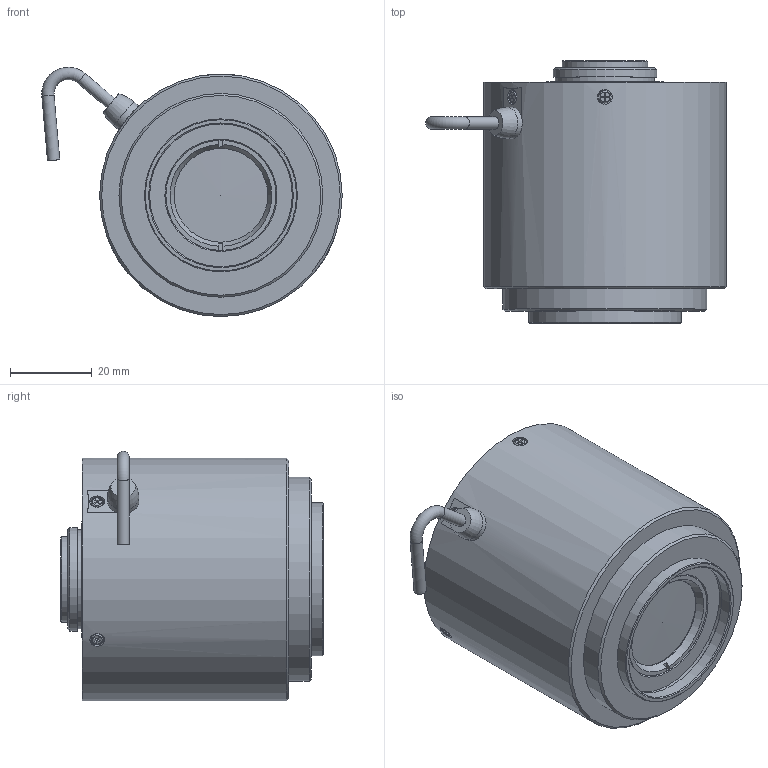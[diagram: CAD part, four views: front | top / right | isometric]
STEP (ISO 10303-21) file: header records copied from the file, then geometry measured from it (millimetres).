
FILE_DESCRIPTION(/* description */ ('Unknown'),/* implementation_level */ '2;1');
FILE_NAME(/* name */ 'Reference 3D-drawing of DL1623UC-MPY (Confidential_Tentative)_211014',/* time_stamp */ '2021-10-14T10:23:49+09:00',/* author */ ('Unknown'),/* organization */ ('Unknown'),/* preprocessor_version */ 'ST-DEVELOPER v16.7',/* originating_system */ 'DEX',/* authorisation */ $);
FILE_SCHEMA (('AUTOMOTIVE_DESIGN {1 0 10303 214 3 1 1}'));
Length unit declared in the file: millimetre
Products named in the file (1): DL1623UC-MPY
Bounding box: 73.69 x 64.39 x 61.13 mm (x, y, z)
Volume: 152451.5 mm3; surface area: 17922.2 mm2
Topology: 1 solids, 6 shells, 279 faces, 667 edges, 438 vertices
Faces by surface type: plane 194, cylinder 53, cone 20, torus 10, sphere 2
Full cylindrical faces by diameter (mm): 1 x2, 2 x4, 2.2 x4, 3 x10, 3.6 x4, 3.8 x4, 7.699 x1, 13.6 x1, 14.221 x1, 21 x1, 23 x1, 24.3 x1, 25.4 x1, 29 x1, 35 x1, 35.5 x1, 37.5 x1, 50 x1, 59.5 x1
Entity records: 9567 total; most frequent: CARTESIAN_POINT 1406, DIRECTION 1243, ORIENTED_EDGE 1156, EDGE_CURVE 578, LINE 441, VECTOR 441, VERTEX_POINT 422, AXIS2_PLACEMENT_3D 401
